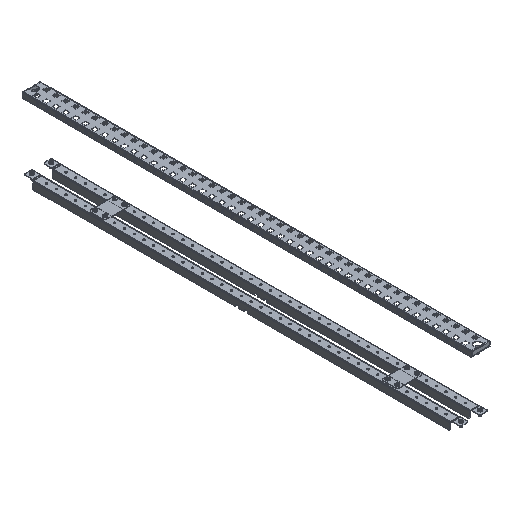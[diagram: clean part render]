
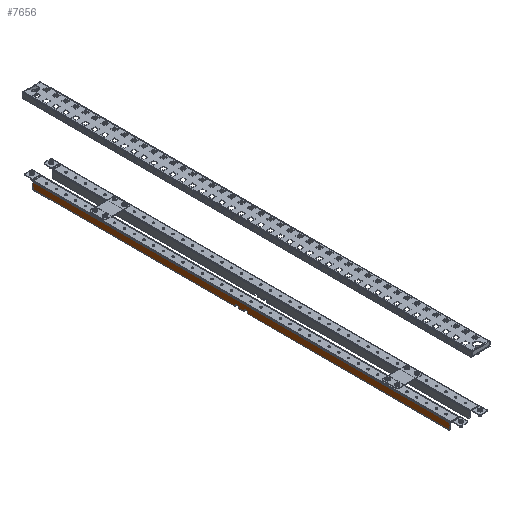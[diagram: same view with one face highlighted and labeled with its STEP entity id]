
A CAD part, isometric view. The second image highlights one B-rep face of the part: STEP entity #7656.
In plain terms, the highlighted planar face has unit normal (-1, 0, 0) as drawn and (1, 0, 0) by its records, which use the part's own axes.
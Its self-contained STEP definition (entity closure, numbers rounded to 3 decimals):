
#104 = DIRECTION ( 'NONE',  ( 0., 0., 1. ) ) ;
#229 = EDGE_CURVE ( 'NONE', #11636, #19688, #1196, .T. ) ;
#283 = EDGE_CURVE ( 'NONE', #23626, #18306, #19328, .T. ) ;
#306 = VECTOR ( 'NONE', #23915, 1000. ) ;
#501 = EDGE_CURVE ( 'NONE', #5987, #23960, #20273, .T. ) ;
#922 = VECTOR ( 'NONE', #11617, 1000. ) ;
#1196 = LINE ( 'NONE', #19454, #15402 ) ;
#1722 = EDGE_CURVE ( 'NONE', #21473, #10417, #18935, .T. ) ;
#2509 = ORIENTED_EDGE ( 'NONE', *, *, #3471, .T. ) ;
#2926 = CARTESIAN_POINT ( 'NONE',  ( 12.5, 15.5, 19.5 ) ) ;
#3007 = VERTEX_POINT ( 'NONE', #14998 ) ;
#3201 = CARTESIAN_POINT ( 'NONE',  ( 12.5, -7.5, 19.5 ) ) ;
#3387 = DIRECTION ( 'NONE',  ( 1., 0., 0. ) ) ;
#3471 = EDGE_CURVE ( 'NONE', #16537, #9947, #9270, .T. ) ;
#3515 = DIRECTION ( 'NONE',  ( 0., 0., -1. ) ) ;
#3569 = CARTESIAN_POINT ( 'NONE',  ( 12.5, -535., 0. ) ) ;
#3598 = EDGE_CURVE ( 'NONE', #18306, #10924, #11905, .T. ) ;
#3711 = DIRECTION ( 'NONE',  ( 0., 0., -1. ) ) ;
#4692 = CIRCLE ( 'NONE', #25366, 3. ) ;
#4759 = CARTESIAN_POINT ( 'NONE',  ( 12.5, 15.5, 14.5 ) ) ;
#5095 = CARTESIAN_POINT ( 'NONE',  ( 12.5, 535., 2.1 ) ) ;
#5203 = LINE ( 'NONE', #15253, #6819 ) ;
#5405 = EDGE_LOOP ( 'NONE', ( #24090, #15110, #16602, #9374, #12762, #8679, #6241, #2509, #17784, #25499, #14893, #19193, #10352, #24367 ) ) ;
#5587 = LINE ( 'NONE', #23153, #16163 ) ;
#5603 = VECTOR ( 'NONE', #21010, 1000. ) ;
#5682 = VECTOR ( 'NONE', #6906, 1000. ) ;
#5796 = CARTESIAN_POINT ( 'NONE',  ( 12.5, -532., 16.5 ) ) ;
#5987 = VERTEX_POINT ( 'NONE', #17637 ) ;
#6241 = ORIENTED_EDGE ( 'NONE', *, *, #12351, .F. ) ;
#6819 = VECTOR ( 'NONE', #15123, 1000. ) ;
#6906 = DIRECTION ( 'NONE',  ( 0., 0., 1. ) ) ;
#7304 = EDGE_CURVE ( 'NONE', #11636, #23960, #21389, .T. ) ;
#7656 = ADVANCED_FACE ( 'NONE', ( #15375 ), #25397, .T. ) ;
#7894 = EDGE_CURVE ( 'NONE', #19688, #21473, #22844, .T. ) ;
#8319 = CIRCLE ( 'NONE', #23083, 3. ) ;
#8679 = ORIENTED_EDGE ( 'NONE', *, *, #17104, .F. ) ;
#9205 = CARTESIAN_POINT ( 'NONE',  ( 12.5, -15.5, 19.5 ) ) ;
#9270 = LINE ( 'NONE', #11262, #11340 ) ;
#9374 = ORIENTED_EDGE ( 'NONE', *, *, #7304, .T. ) ;
#9507 = EDGE_CURVE ( 'NONE', #9947, #10924, #8319, .T. ) ;
#9947 = VERTEX_POINT ( 'NONE', #13453 ) ;
#10352 = ORIENTED_EDGE ( 'NONE', *, *, #21925, .T. ) ;
#10417 = VERTEX_POINT ( 'NONE', #14432 ) ;
#10699 = LINE ( 'NONE', #24956, #5603 ) ;
#10924 = VERTEX_POINT ( 'NONE', #13902 ) ;
#11262 = CARTESIAN_POINT ( 'NONE',  ( 12.5, 535., 19.5 ) ) ;
#11340 = VECTOR ( 'NONE', #13119, 1000. ) ;
#11402 = DIRECTION ( 'NONE',  ( 0., -1., 0. ) ) ;
#11566 = CARTESIAN_POINT ( 'NONE',  ( 12.5, 7.5, 19.5 ) ) ;
#11617 = DIRECTION ( 'NONE',  ( 0., -1., 0. ) ) ;
#11636 = VERTEX_POINT ( 'NONE', #11566 ) ;
#11905 = LINE ( 'NONE', #3569, #306 ) ;
#12197 = EDGE_CURVE ( 'NONE', #23626, #14900, #22583, .T. ) ;
#12351 = EDGE_CURVE ( 'NONE', #16537, #3007, #10699, .T. ) ;
#12762 = ORIENTED_EDGE ( 'NONE', *, *, #501, .F. ) ;
#12991 = VECTOR ( 'NONE', #13110, 1000. ) ;
#13110 = DIRECTION ( 'NONE',  ( 0., 1., 0. ) ) ;
#13119 = DIRECTION ( 'NONE',  ( 0., -1., 0. ) ) ;
#13162 = VERTEX_POINT ( 'NONE', #17791 ) ;
#13375 = CARTESIAN_POINT ( 'NONE',  ( 12.5, 15.5, 14.5 ) ) ;
#13453 = CARTESIAN_POINT ( 'NONE',  ( 12.5, -532., 19.5 ) ) ;
#13869 = DIRECTION ( 'NONE',  ( 0., 0., -1. ) ) ;
#13902 = CARTESIAN_POINT ( 'NONE',  ( 12.5, -535., 16.5 ) ) ;
#14432 = CARTESIAN_POINT ( 'NONE',  ( 12.5, 15.5, 19.5 ) ) ;
#14893 = ORIENTED_EDGE ( 'NONE', *, *, #283, .F. ) ;
#14900 = VERTEX_POINT ( 'NONE', #17233 ) ;
#14938 = VECTOR ( 'NONE', #104, 1000. ) ;
#14998 = CARTESIAN_POINT ( 'NONE',  ( 12.5, -15.5, 14.5 ) ) ;
#15110 = ORIENTED_EDGE ( 'NONE', *, *, #7894, .F. ) ;
#15123 = DIRECTION ( 'NONE',  ( 0., 1., 0. ) ) ;
#15253 = CARTESIAN_POINT ( 'NONE',  ( 12.5, -15.5, 14.5 ) ) ;
#15375 = FACE_OUTER_BOUND ( 'NONE', #5405, .T. ) ;
#15402 = VECTOR ( 'NONE', #3711, 1000. ) ;
#16082 = DIRECTION ( 'NONE',  ( 1., 0., 0. ) ) ;
#16163 = VECTOR ( 'NONE', #17607, 1000. ) ;
#16537 = VERTEX_POINT ( 'NONE', #9205 ) ;
#16602 = ORIENTED_EDGE ( 'NONE', *, *, #229, .F. ) ;
#17104 = EDGE_CURVE ( 'NONE', #3007, #5987, #5203, .T. ) ;
#17233 = CARTESIAN_POINT ( 'NONE',  ( 12.5, 535., 16.5 ) ) ;
#17481 = DIRECTION ( 'NONE',  ( 1., 0., 0. ) ) ;
#17499 = CARTESIAN_POINT ( 'NONE',  ( 12.5, -535., 2.1 ) ) ;
#17605 = CARTESIAN_POINT ( 'NONE',  ( 12.5, 535., 0. ) ) ;
#17607 = DIRECTION ( 'NONE',  ( 0., -1., 0. ) ) ;
#17637 = CARTESIAN_POINT ( 'NONE',  ( 12.5, -7.5, 14.5 ) ) ;
#17668 = CARTESIAN_POINT ( 'NONE',  ( 12.5, 532., 16.5 ) ) ;
#17784 = ORIENTED_EDGE ( 'NONE', *, *, #9507, .T. ) ;
#17791 = CARTESIAN_POINT ( 'NONE',  ( 12.5, 532., 19.5 ) ) ;
#18306 = VERTEX_POINT ( 'NONE', #17499 ) ;
#18546 = DIRECTION ( 'NONE',  ( 0., 0., 1. ) ) ;
#18935 = LINE ( 'NONE', #2926, #5682 ) ;
#19193 = ORIENTED_EDGE ( 'NONE', *, *, #12197, .T. ) ;
#19328 = LINE ( 'NONE', #21816, #25920 ) ;
#19454 = CARTESIAN_POINT ( 'NONE',  ( 12.5, 7.5, 14.5 ) ) ;
#19530 = CARTESIAN_POINT ( 'NONE',  ( 12.5, 535., 19.5 ) ) ;
#19688 = VERTEX_POINT ( 'NONE', #22862 ) ;
#20273 = LINE ( 'NONE', #22246, #22975 ) ;
#21010 = DIRECTION ( 'NONE',  ( 0., 0., -1. ) ) ;
#21389 = LINE ( 'NONE', #19530, #922 ) ;
#21473 = VERTEX_POINT ( 'NONE', #13375 ) ;
#21816 = CARTESIAN_POINT ( 'NONE',  ( 12.5, 535., 2.1 ) ) ;
#21925 = EDGE_CURVE ( 'NONE', #14900, #13162, #4692, .T. ) ;
#22246 = CARTESIAN_POINT ( 'NONE',  ( 12.5, -7.5, 14.5 ) ) ;
#22322 = CARTESIAN_POINT ( 'NONE',  ( 12.5, 535., 0. ) ) ;
#22583 = LINE ( 'NONE', #22322, #14938 ) ;
#22844 = LINE ( 'NONE', #4759, #12991 ) ;
#22862 = CARTESIAN_POINT ( 'NONE',  ( 12.5, 7.5, 14.5 ) ) ;
#22975 = VECTOR ( 'NONE', #18546, 1000. ) ;
#23083 = AXIS2_PLACEMENT_3D ( 'NONE', #5796, #16082, #13869 ) ;
#23153 = CARTESIAN_POINT ( 'NONE',  ( 12.5, 535., 19.5 ) ) ;
#23626 = VERTEX_POINT ( 'NONE', #5095 ) ;
#23915 = DIRECTION ( 'NONE',  ( 0., 0., 1. ) ) ;
#23960 = VERTEX_POINT ( 'NONE', #3201 ) ;
#23974 = EDGE_CURVE ( 'NONE', #13162, #10417, #5587, .T. ) ;
#24090 = ORIENTED_EDGE ( 'NONE', *, *, #1722, .F. ) ;
#24367 = ORIENTED_EDGE ( 'NONE', *, *, #23974, .T. ) ;
#24805 = AXIS2_PLACEMENT_3D ( 'NONE', #17605, #17481, #25658 ) ;
#24956 = CARTESIAN_POINT ( 'NONE',  ( 12.5, -15.5, 19.5 ) ) ;
#25366 = AXIS2_PLACEMENT_3D ( 'NONE', #17668, #3387, #3515 ) ;
#25397 = PLANE ( 'NONE',  #24805 ) ;
#25499 = ORIENTED_EDGE ( 'NONE', *, *, #3598, .F. ) ;
#25658 = DIRECTION ( 'NONE',  ( 0., 0., -1. ) ) ;
#25920 = VECTOR ( 'NONE', #11402, 1000. ) ;
